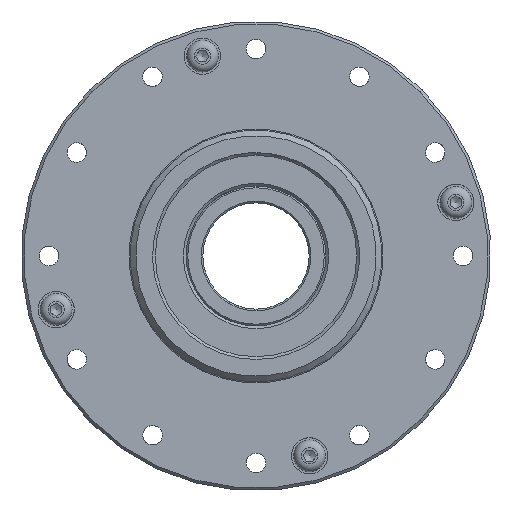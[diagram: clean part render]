
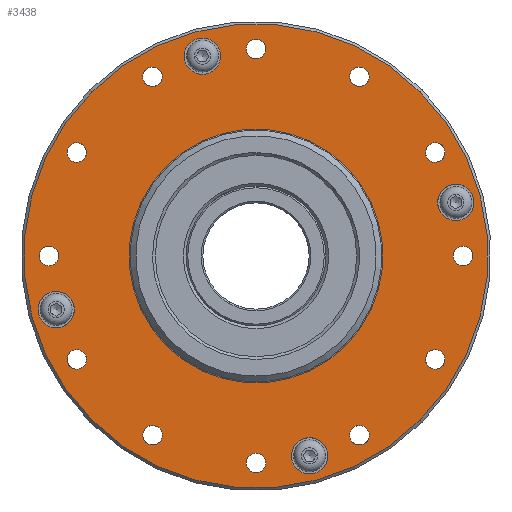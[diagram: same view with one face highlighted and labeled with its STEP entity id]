
A CAD part, left-side view. The second image highlights one B-rep face of the part: STEP entity #3438.
In plain terms, the highlighted planar face has unit normal (-1, 0, 0).
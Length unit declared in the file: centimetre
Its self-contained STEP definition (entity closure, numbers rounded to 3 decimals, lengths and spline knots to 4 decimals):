
#390=PLANE($,#3792);
#533=FACE_BOUND($,#1120,.T.);
#534=FACE_BOUND($,#1121,.T.);
#535=FACE_BOUND($,#1122,.T.);
#536=FACE_BOUND($,#1123,.T.);
#537=FACE_BOUND($,#1124,.T.);
#538=FACE_BOUND($,#1125,.T.);
#539=FACE_BOUND($,#1126,.T.);
#540=FACE_BOUND($,#1127,.T.);
#541=FACE_BOUND($,#1128,.T.);
#542=FACE_BOUND($,#1129,.T.);
#543=FACE_BOUND($,#1130,.T.);
#544=FACE_BOUND($,#1131,.T.);
#545=FACE_BOUND($,#1132,.T.);
#546=FACE_BOUND($,#1133,.T.);
#547=FACE_BOUND($,#1134,.T.);
#548=FACE_BOUND($,#1135,.T.);
#549=FACE_BOUND($,#1136,.T.);
#550=FACE_BOUND($,#1137,.T.);
#1120=EDGE_LOOP($,(#2676));
#1121=EDGE_LOOP($,(#2677));
#1122=EDGE_LOOP($,(#2678));
#1123=EDGE_LOOP($,(#2679));
#1124=EDGE_LOOP($,(#2680));
#1125=EDGE_LOOP($,(#2681));
#1126=EDGE_LOOP($,(#2682));
#1127=EDGE_LOOP($,(#2683));
#1128=EDGE_LOOP($,(#2684));
#1129=EDGE_LOOP($,(#2685));
#1130=EDGE_LOOP($,(#2686));
#1131=EDGE_LOOP($,(#2687));
#1132=EDGE_LOOP($,(#2688));
#1133=EDGE_LOOP($,(#2689));
#1134=EDGE_LOOP($,(#2690));
#1135=EDGE_LOOP($,(#2691));
#1136=EDGE_LOOP($,(#2692));
#1137=EDGE_LOOP($,(#2693));
#1514=CIRCLE($,#3782,0.325);
#1515=CIRCLE($,#3784,0.325);
#1516=CIRCLE($,#3786,0.325);
#1517=CIRCLE($,#3788,0.325);
#1519=CIRCLE($,#3791,2.27);
#1520=CIRCLE($,#3793,0.175);
#1521=CIRCLE($,#3794,0.175);
#1522=CIRCLE($,#3795,0.175);
#1523=CIRCLE($,#3796,0.175);
#1524=CIRCLE($,#3797,0.175);
#1525=CIRCLE($,#3798,0.175);
#1526=CIRCLE($,#3799,0.175);
#1527=CIRCLE($,#3800,0.175);
#1528=CIRCLE($,#3801,0.175);
#1529=CIRCLE($,#3802,0.175);
#1530=CIRCLE($,#3803,0.175);
#1531=CIRCLE($,#3804,0.175);
#1532=CIRCLE($,#3805,4.15);
#1798=VERTEX_POINT($,#5632);
#1799=VERTEX_POINT($,#5635);
#1800=VERTEX_POINT($,#5638);
#1801=VERTEX_POINT($,#5641);
#1803=VERTEX_POINT($,#5646);
#1804=VERTEX_POINT($,#5649);
#1805=VERTEX_POINT($,#5651);
#1806=VERTEX_POINT($,#5653);
#1807=VERTEX_POINT($,#5655);
#1808=VERTEX_POINT($,#5657);
#1809=VERTEX_POINT($,#5659);
#1810=VERTEX_POINT($,#5661);
#1811=VERTEX_POINT($,#5663);
#1812=VERTEX_POINT($,#5665);
#1813=VERTEX_POINT($,#5667);
#1814=VERTEX_POINT($,#5669);
#1815=VERTEX_POINT($,#5671);
#1816=VERTEX_POINT($,#5673);
#2148=EDGE_CURVE($,#1798,#1798,#1514,.T.);
#2149=EDGE_CURVE($,#1799,#1799,#1515,.T.);
#2150=EDGE_CURVE($,#1800,#1800,#1516,.T.);
#2151=EDGE_CURVE($,#1801,#1801,#1517,.T.);
#2153=EDGE_CURVE($,#1803,#1803,#1519,.T.);
#2154=EDGE_CURVE($,#1804,#1804,#1520,.T.);
#2155=EDGE_CURVE($,#1805,#1805,#1521,.T.);
#2156=EDGE_CURVE($,#1806,#1806,#1522,.T.);
#2157=EDGE_CURVE($,#1807,#1807,#1523,.T.);
#2158=EDGE_CURVE($,#1808,#1808,#1524,.T.);
#2159=EDGE_CURVE($,#1809,#1809,#1525,.T.);
#2160=EDGE_CURVE($,#1810,#1810,#1526,.T.);
#2161=EDGE_CURVE($,#1811,#1811,#1527,.T.);
#2162=EDGE_CURVE($,#1812,#1812,#1528,.T.);
#2163=EDGE_CURVE($,#1813,#1813,#1529,.T.);
#2164=EDGE_CURVE($,#1814,#1814,#1530,.T.);
#2165=EDGE_CURVE($,#1815,#1815,#1531,.T.);
#2166=EDGE_CURVE($,#1816,#1816,#1532,.T.);
#2676=ORIENTED_EDGE($,*,*,#2153,.F.);
#2677=ORIENTED_EDGE($,*,*,#2154,.T.);
#2678=ORIENTED_EDGE($,*,*,#2155,.T.);
#2679=ORIENTED_EDGE($,*,*,#2156,.T.);
#2680=ORIENTED_EDGE($,*,*,#2157,.T.);
#2681=ORIENTED_EDGE($,*,*,#2158,.T.);
#2682=ORIENTED_EDGE($,*,*,#2159,.T.);
#2683=ORIENTED_EDGE($,*,*,#2160,.T.);
#2684=ORIENTED_EDGE($,*,*,#2161,.T.);
#2685=ORIENTED_EDGE($,*,*,#2162,.T.);
#2686=ORIENTED_EDGE($,*,*,#2163,.T.);
#2687=ORIENTED_EDGE($,*,*,#2164,.T.);
#2688=ORIENTED_EDGE($,*,*,#2165,.T.);
#2689=ORIENTED_EDGE($,*,*,#2148,.T.);
#2690=ORIENTED_EDGE($,*,*,#2149,.T.);
#2691=ORIENTED_EDGE($,*,*,#2150,.T.);
#2692=ORIENTED_EDGE($,*,*,#2151,.T.);
#2693=ORIENTED_EDGE($,*,*,#2166,.F.);
#3438=ADVANCED_FACE($,(#533,#534,#535,#536,#537,#538,#539,#540,#541,#542,
#543,#544,#545,#546,#547,#548,#549,#550),#390,.T.);
#3782=AXIS2_PLACEMENT_3D($,#5633,#4503,#4504);
#3784=AXIS2_PLACEMENT_3D($,#5636,#4507,#4508);
#3786=AXIS2_PLACEMENT_3D($,#5639,#4511,#4512);
#3788=AXIS2_PLACEMENT_3D($,#5642,#4515,#4516);
#3791=AXIS2_PLACEMENT_3D($,#5647,#4521,#4522);
#3792=AXIS2_PLACEMENT_3D($,#5648,#4523,#4524);
#3793=AXIS2_PLACEMENT_3D($,#5650,#4525,#4526);
#3794=AXIS2_PLACEMENT_3D($,#5652,#4527,#4528);
#3795=AXIS2_PLACEMENT_3D($,#5654,#4529,#4530);
#3796=AXIS2_PLACEMENT_3D($,#5656,#4531,#4532);
#3797=AXIS2_PLACEMENT_3D($,#5658,#4533,#4534);
#3798=AXIS2_PLACEMENT_3D($,#5660,#4535,#4536);
#3799=AXIS2_PLACEMENT_3D($,#5662,#4537,#4538);
#3800=AXIS2_PLACEMENT_3D($,#5664,#4539,#4540);
#3801=AXIS2_PLACEMENT_3D($,#5666,#4541,#4542);
#3802=AXIS2_PLACEMENT_3D($,#5668,#4543,#4544);
#3803=AXIS2_PLACEMENT_3D($,#5670,#4545,#4546);
#3804=AXIS2_PLACEMENT_3D($,#5672,#4547,#4548);
#3805=AXIS2_PLACEMENT_3D($,#5674,#4549,#4550);
#4503=DIRECTION('center_axis',(1.,0.,0.));
#4504=DIRECTION('ref_axis',(0.,-0.259,-0.966));
#4507=DIRECTION('center_axis',(1.,0.,0.));
#4508=DIRECTION('ref_axis',(0.,-0.259,-0.966));
#4511=DIRECTION('center_axis',(1.,0.,0.));
#4512=DIRECTION('ref_axis',(0.,-0.259,-0.966));
#4515=DIRECTION('center_axis',(1.,0.,0.));
#4516=DIRECTION('ref_axis',(0.,-0.259,-0.966));
#4521=DIRECTION('center_axis',(-1.,0.,0.));
#4522=DIRECTION('ref_axis',(0.,0.966,-0.259));
#4523=DIRECTION('center_axis',(-1.,0.,0.));
#4524=DIRECTION('ref_axis',(0.,-0.259,-0.966));
#4525=DIRECTION('center_axis',(1.,0.,0.));
#4526=DIRECTION('ref_axis',(0.,-0.259,-0.966));
#4527=DIRECTION('center_axis',(1.,0.,0.));
#4528=DIRECTION('ref_axis',(0.,-0.259,-0.966));
#4529=DIRECTION('center_axis',(1.,0.,0.));
#4530=DIRECTION('ref_axis',(0.,-0.259,-0.966));
#4531=DIRECTION('center_axis',(1.,0.,0.));
#4532=DIRECTION('ref_axis',(0.,-0.259,-0.966));
#4533=DIRECTION('center_axis',(1.,0.,0.));
#4534=DIRECTION('ref_axis',(0.,-0.259,-0.966));
#4535=DIRECTION('center_axis',(1.,0.,0.));
#4536=DIRECTION('ref_axis',(0.,-0.259,-0.966));
#4537=DIRECTION('center_axis',(1.,0.,0.));
#4538=DIRECTION('ref_axis',(0.,-0.259,-0.966));
#4539=DIRECTION('center_axis',(1.,0.,0.));
#4540=DIRECTION('ref_axis',(0.,-0.259,-0.966));
#4541=DIRECTION('center_axis',(1.,0.,0.));
#4542=DIRECTION('ref_axis',(0.,-0.259,-0.966));
#4543=DIRECTION('center_axis',(1.,0.,0.));
#4544=DIRECTION('ref_axis',(0.,-0.259,-0.966));
#4545=DIRECTION('center_axis',(1.,0.,0.));
#4546=DIRECTION('ref_axis',(0.,-0.259,-0.966));
#4547=DIRECTION('center_axis',(1.,0.,0.));
#4548=DIRECTION('ref_axis',(0.,-0.259,-0.966));
#4549=DIRECTION('center_axis',(1.,0.,0.));
#4550=DIRECTION('ref_axis',(0.,0.966,-0.259));
#5632=CARTESIAN_POINT('',(-0.7,0.8735,3.26));
#5633=CARTESIAN_POINT('Origin',(-0.7,0.9576,3.5739));
#5635=CARTESIAN_POINT('',(-0.7,-1.0417,-3.8879));
#5636=CARTESIAN_POINT('Origin',(-0.7,-0.9576,-3.5739));
#5638=CARTESIAN_POINT('',(-0.7,-3.658,0.6437));
#5639=CARTESIAN_POINT('Origin',(-0.7,-3.5739,0.9576));
#5641=CARTESIAN_POINT('',(-0.7,3.4898,-1.2716));
#5642=CARTESIAN_POINT('Origin',(-0.7,3.5739,-0.9576));
#5646=CARTESIAN_POINT('',(-0.7,-2.1927,0.5875));
#5647=CARTESIAN_POINT('Origin',(-0.7,0.,
0.));
#5648=CARTESIAN_POINT('Origin',(-0.7,-4.0569,1.087));
#5649=CARTESIAN_POINT('',(-0.7,1.8047,-3.3733));
#5650=CARTESIAN_POINT('Origin',(-0.7,1.85,-3.2043));
#5651=CARTESIAN_POINT('',(-0.7,3.6547,-0.169));
#5652=CARTESIAN_POINT('Origin',(-0.7,3.7,0.));
#5653=CARTESIAN_POINT('',(-0.7,1.8047,3.0353));
#5654=CARTESIAN_POINT('Origin',(-0.7,1.85,3.2043));
#5655=CARTESIAN_POINT('',(-0.7,-1.8953,3.0353));
#5656=CARTESIAN_POINT('Origin',(-0.7,-1.85,3.2043));
#5657=CARTESIAN_POINT('',(-0.7,-3.7453,-0.169));
#5658=CARTESIAN_POINT('Origin',(-0.7,-3.7,0.));
#5659=CARTESIAN_POINT('',(-0.7,-1.8953,-3.3733));
#5660=CARTESIAN_POINT('Origin',(-0.7,-1.85,-3.2043));
#5661=CARTESIAN_POINT('',(-0.7,-3.2496,-2.019));
#5662=CARTESIAN_POINT('Origin',(-0.7,-3.2043,-1.85));
#5663=CARTESIAN_POINT('',(-0.7,-3.2496,1.681));
#5664=CARTESIAN_POINT('Origin',(-0.7,-3.2043,1.85));
#5665=CARTESIAN_POINT('',(-0.7,-0.0453,3.531));
#5666=CARTESIAN_POINT('Origin',(-0.7,0.,
3.7));
#5667=CARTESIAN_POINT('',(-0.7,3.159,1.681));
#5668=CARTESIAN_POINT('Origin',(-0.7,3.2043,1.85));
#5669=CARTESIAN_POINT('',(-0.7,3.159,-2.019));
#5670=CARTESIAN_POINT('Origin',(-0.7,3.2043,-1.85));
#5671=CARTESIAN_POINT('',(-0.7,-0.0453,-3.869));
#5672=CARTESIAN_POINT('Origin',(-0.7,0.,
-3.7));
#5673=CARTESIAN_POINT('',(-0.7,-4.0086,1.0741));
#5674=CARTESIAN_POINT('Origin',(-0.7,0.,
0.));
